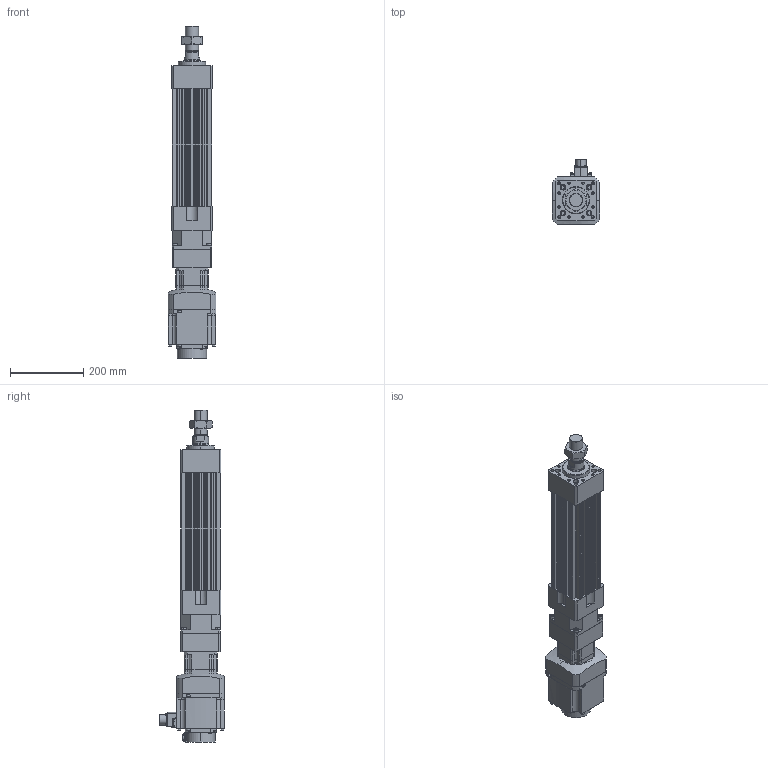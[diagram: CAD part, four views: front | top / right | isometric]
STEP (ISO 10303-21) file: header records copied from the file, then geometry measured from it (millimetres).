
FILE_DESCRIPTION (( 'STEP AP203' ), '1' );
FILE_NAME ('HES110NS(HS)-S150-W010G00-M.STEP', '2023-01-27T04:16:33', ( 'tms' ), ( '' ), 'SwSTEP 2.0', 'SolidWorks 2013', '' );
FILE_SCHEMA (( 'CONFIG_CONTROL_DESIGN' ));
Length unit declared in the file: millimetre
Products named in the file (8): HES110NS(HS)-S150-W010G00-M; HES110-S150-G090; M36X1.5P; AB0901; AB090-003[HG-SR102B]; HES110 ROD M ST150; HG-SR102; P0401301004
Assembly tree (7 placements, depth 3):
  HES110NS(HS)-S150-W010G00-M
    HES110-S150-G090
    HES110 ROD M ST150
    M36X1.5P
    AB090-003[HG-SR102B]
      AB0901
      P0401301004
    HG-SR102
Bounding box: 130 x 177.49 x 908.5 mm (x, y, z)
Volume: 5866706.3 mm3; surface area: 754614.1 mm2
Topology: 4 solids, 15 shells, 1197 faces, 3018 edges, 1947 vertices
Faces by surface type: plane 550, cylinder 535, cone 100, bspline 8, torus 4
Entity records: 37761 total; most frequent: CARTESIAN_POINT 7330, DIRECTION 6511, ORIENTED_EDGE 5944, EDGE_CURVE 2982, AXIS2_PLACEMENT_3D 2399, VERTEX_POINT 1947, LINE 1713, VECTOR 1713
